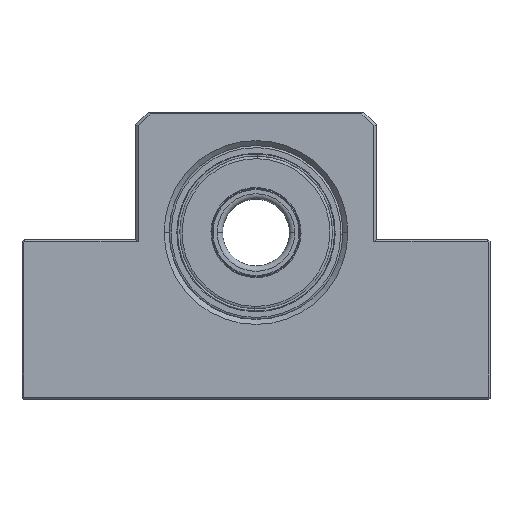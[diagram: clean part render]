
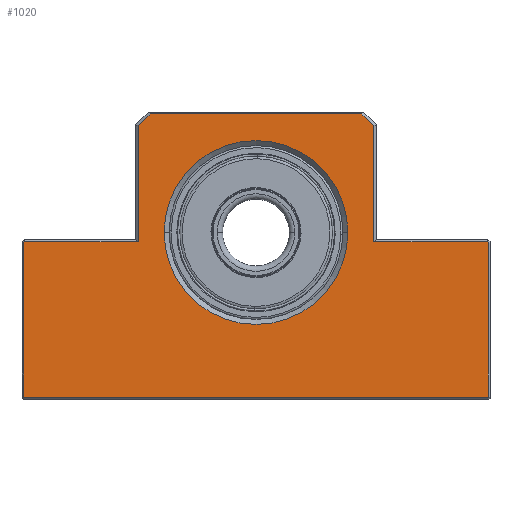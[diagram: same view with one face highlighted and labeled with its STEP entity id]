
A CAD part, top view. The second image highlights one B-rep face of the part: STEP entity #1020.
In plain terms, the highlighted planar face has unit normal (0, 0, 1).
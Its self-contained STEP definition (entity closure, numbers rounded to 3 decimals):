
#22 = AXIS2_PLACEMENT_3D ( 'NONE', #1830, #1839, #1809 ) ;
#33 = LINE ( 'NONE', #1534, #823 ) ;
#37 = AXIS2_PLACEMENT_3D ( 'NONE', #2757, #505, #1284 ) ;
#119 = VERTEX_POINT ( 'NONE', #2928 ) ;
#137 = EDGE_LOOP ( 'NONE', ( #1298, #3365, #2610, #871, #2520, #1122, #2432, #332, #3097, #1663, #962, #1586, #2916, #2181 ) ) ;
#178 = EDGE_CURVE ( 'NONE', #2779, #2315, #1399, .T. ) ;
#195 = CIRCLE ( 'NONE', #37, 13.75 ) ;
#211 = CARTESIAN_POINT ( 'NONE',  ( -17.6, 41.084, 9.9 ) ) ;
#238 = VECTOR ( 'NONE', #278, 1000. ) ;
#248 = DIRECTION ( 'NONE',  ( 0.707, -0.707, 0. ) ) ;
#260 = CARTESIAN_POINT ( 'NONE',  ( -17.6, 49.812, 9.9 ) ) ;
#278 = DIRECTION ( 'NONE',  ( 0.707, 0.707, 0. ) ) ;
#292 = EDGE_CURVE ( 'NONE', #759, #2779, #3136, .T. ) ;
#324 = EDGE_CURVE ( 'NONE', #1563, #3239, #195, .T. ) ;
#332 = ORIENTED_EDGE ( 'NONE', *, *, #807, .F. ) ;
#340 = DIRECTION ( 'NONE',  ( -1., 0., 0. ) ) ;
#356 = CARTESIAN_POINT ( 'NONE',  ( 34.75, 0.5, 9.9 ) ) ;
#377 = VERTEX_POINT ( 'NONE', #1343 ) ;
#387 = VECTOR ( 'NONE', #2491, 1000. ) ;
#417 = CARTESIAN_POINT ( 'NONE',  ( -34.95, 0.7, 9.9 ) ) ;
#418 = CARTESIAN_POINT ( 'NONE',  ( -11.767, 46.917, 9.9 ) ) ;
#431 = DIRECTION ( 'NONE',  ( 1., 0., 0. ) ) ;
#435 = CARTESIAN_POINT ( 'NONE',  ( -34.7, 23.67, 9.9 ) ) ;
#482 = CARTESIAN_POINT ( 'NONE',  ( -48.163, 42.85, 9.9 ) ) ;
#505 = DIRECTION ( 'NONE',  ( 0., 0., 1. ) ) ;
#513 = CARTESIAN_POINT ( 'NONE',  ( -34.75, 23.62, 9.9 ) ) ;
#532 = EDGE_CURVE ( 'NONE', #2699, #1853, #3185, .T. ) ;
#659 = VERTEX_POINT ( 'NONE', #897 ) ;
#733 = DIRECTION ( 'NONE',  ( 0., 1., 0. ) ) ;
#737 = CARTESIAN_POINT ( 'NONE',  ( 46.917, 11.767, 9.9 ) ) ;
#759 = VERTEX_POINT ( 'NONE', #1504 ) ;
#789 = AXIS2_PLACEMENT_3D ( 'NONE', #3210, #3201, #3188 ) ;
#797 = DIRECTION ( 'NONE',  ( 0.707, -0.707, 0. ) ) ;
#807 = EDGE_CURVE ( 'NONE', #659, #2805, #1581, .T. ) ;
#823 = VECTOR ( 'NONE', #1557, 1000. ) ;
#854 = CARTESIAN_POINT ( 'NONE',  ( 34.45, 23.92, 9.9 ) ) ;
#866 = VECTOR ( 'NONE', #3036, 1000. ) ;
#871 = ORIENTED_EDGE ( 'NONE', *, *, #292, .F. ) ;
#897 = CARTESIAN_POINT ( 'NONE',  ( 17.6, 23.72, 9.9 ) ) ;
#940 = VECTOR ( 'NONE', #1340, 1000. ) ;
#962 = ORIENTED_EDGE ( 'NONE', *, *, #2709, .F. ) ;
#976 = CIRCLE ( 'NONE', #789, 13.75 ) ;
#1020 = ADVANCED_FACE ( 'NONE', ( #1446, #2867 ), #2573, .T. ) ;
#1029 = EDGE_CURVE ( 'NONE', #3334, #1140, #33, .T. ) ;
#1106 = LINE ( 'NONE', #260, #3261 ) ;
#1122 = ORIENTED_EDGE ( 'NONE', *, *, #2524, .F. ) ;
#1140 = VERTEX_POINT ( 'NONE', #1361 ) ;
#1141 = CARTESIAN_POINT ( 'NONE',  ( -15.834, 42.85, 9.9 ) ) ;
#1152 = DIRECTION ( 'NONE',  ( 0., 1., 0. ) ) ;
#1159 = CARTESIAN_POINT ( 'NONE',  ( 34.65, 23.72, 9.9 ) ) ;
#1171 = DIRECTION ( 'NONE',  ( -0.707, 0.707, 0. ) ) ;
#1173 = VERTEX_POINT ( 'NONE', #513 ) ;
#1186 = LINE ( 'NONE', #3049, #387 ) ;
#1226 = LINE ( 'NONE', #2407, #2537 ) ;
#1231 = LINE ( 'NONE', #482, #2453 ) ;
#1261 = CARTESIAN_POINT ( 'NONE',  ( -34.75, 0., 9.9 ) ) ;
#1284 = DIRECTION ( 'NONE',  ( 1., 0., 0. ) ) ;
#1298 = ORIENTED_EDGE ( 'NONE', *, *, #3113, .F. ) ;
#1340 = DIRECTION ( 'NONE',  ( 0., -1., 0. ) ) ;
#1343 = CARTESIAN_POINT ( 'NONE',  ( 17.6, 41.084, 9.9 ) ) ;
#1353 = VECTOR ( 'NONE', #797, 1000. ) ;
#1361 = CARTESIAN_POINT ( 'NONE',  ( -17.6, 23.72, 9.9 ) ) ;
#1381 = CARTESIAN_POINT ( 'NONE',  ( 34.75, 0., 9.9 ) ) ;
#1399 = LINE ( 'NONE', #417, #3320 ) ;
#1446 = FACE_BOUND ( 'NONE', #1644, .T. ) ;
#1501 = DIRECTION ( 'NONE',  ( 0.707, 0.707, 0. ) ) ;
#1504 = CARTESIAN_POINT ( 'NONE',  ( 34.65, 0.4, 9.9 ) ) ;
#1534 = CARTESIAN_POINT ( 'NONE',  ( 35.15, 23.72, 9.9 ) ) ;
#1537 = CARTESIAN_POINT ( 'NONE',  ( 35.15, 0.4, 9.9 ) ) ;
#1544 = VERTEX_POINT ( 'NONE', #1900 ) ;
#1557 = DIRECTION ( 'NONE',  ( 1., 0., 0. ) ) ;
#1563 = VERTEX_POINT ( 'NONE', #1745 ) ;
#1581 = LINE ( 'NONE', #3100, #866 ) ;
#1586 = ORIENTED_EDGE ( 'NONE', *, *, #532, .F. ) ;
#1601 = CARTESIAN_POINT ( 'NONE',  ( -13.75, 25.12, 9.9 ) ) ;
#1644 = EDGE_LOOP ( 'NONE', ( #2784, #2697 ) ) ;
#1663 = ORIENTED_EDGE ( 'NONE', *, *, #3338, .F. ) ;
#1745 = CARTESIAN_POINT ( 'NONE',  ( 13.75, 25.12, 9.9 ) ) ;
#1809 = DIRECTION ( 'NONE',  ( 1., 0., 0. ) ) ;
#1830 = CARTESIAN_POINT ( 'NONE',  ( -55.871, 50., 9.9 ) ) ;
#1839 = DIRECTION ( 'NONE',  ( 0., 0., 1. ) ) ;
#1853 = VERTEX_POINT ( 'NONE', #1141 ) ;
#1900 = CARTESIAN_POINT ( 'NONE',  ( 34.75, 23.62, 9.9 ) ) ;
#1919 = EDGE_CURVE ( 'NONE', #2805, #1544, #1961, .T. ) ;
#1961 = LINE ( 'NONE', #854, #1353 ) ;
#1968 = EDGE_CURVE ( 'NONE', #1140, #2699, #1106, .T. ) ;
#1994 = VECTOR ( 'NONE', #1501, 1000. ) ;
#2035 = VECTOR ( 'NONE', #248, 1000. ) ;
#2157 = LINE ( 'NONE', #435, #1994 ) ;
#2181 = ORIENTED_EDGE ( 'NONE', *, *, #1029, .F. ) ;
#2294 = CARTESIAN_POINT ( 'NONE',  ( -34.65, 23.72, 9.9 ) ) ;
#2310 = VERTEX_POINT ( 'NONE', #356 ) ;
#2315 = VERTEX_POINT ( 'NONE', #3477 ) ;
#2324 = LINE ( 'NONE', #1261, #3168 ) ;
#2329 = LINE ( 'NONE', #1381, #940 ) ;
#2384 = VECTOR ( 'NONE', #340, 1000. ) ;
#2407 = CARTESIAN_POINT ( 'NONE',  ( 17.6, 0., 9.9 ) ) ;
#2432 = ORIENTED_EDGE ( 'NONE', *, *, #1919, .F. ) ;
#2453 = VECTOR ( 'NONE', #431, 1000. ) ;
#2491 = DIRECTION ( 'NONE',  ( -0.707, -0.707, 0. ) ) ;
#2520 = ORIENTED_EDGE ( 'NONE', *, *, #2969, .F. ) ;
#2524 = EDGE_CURVE ( 'NONE', #1544, #2310, #2329, .T. ) ;
#2537 = VECTOR ( 'NONE', #2767, 1000. ) ;
#2573 = PLANE ( 'NONE',  #22 ) ;
#2610 = ORIENTED_EDGE ( 'NONE', *, *, #178, .F. ) ;
#2697 = ORIENTED_EDGE ( 'NONE', *, *, #3240, .F. ) ;
#2699 = VERTEX_POINT ( 'NONE', #211 ) ;
#2709 = EDGE_CURVE ( 'NONE', #1853, #119, #1231, .T. ) ;
#2754 = LINE ( 'NONE', #737, #2035 ) ;
#2757 = CARTESIAN_POINT ( 'NONE',  ( 0., 25.12, 9.9 ) ) ;
#2767 = DIRECTION ( 'NONE',  ( 0., -1., 0. ) ) ;
#2779 = VERTEX_POINT ( 'NONE', #3461 ) ;
#2784 = ORIENTED_EDGE ( 'NONE', *, *, #324, .F. ) ;
#2805 = VERTEX_POINT ( 'NONE', #1159 ) ;
#2867 = FACE_OUTER_BOUND ( 'NONE', #137, .T. ) ;
#2916 = ORIENTED_EDGE ( 'NONE', *, *, #1968, .F. ) ;
#2928 = CARTESIAN_POINT ( 'NONE',  ( 15.834, 42.85, 9.9 ) ) ;
#2969 = EDGE_CURVE ( 'NONE', #2310, #759, #1186, .T. ) ;
#3036 = DIRECTION ( 'NONE',  ( 1., 0., 0. ) ) ;
#3037 = EDGE_CURVE ( 'NONE', #2315, #1173, #2324, .T. ) ;
#3049 = CARTESIAN_POINT ( 'NONE',  ( 34.95, 0.7, 9.9 ) ) ;
#3097 = ORIENTED_EDGE ( 'NONE', *, *, #3150, .F. ) ;
#3100 = CARTESIAN_POINT ( 'NONE',  ( 39.817, 23.72, 9.9 ) ) ;
#3113 = EDGE_CURVE ( 'NONE', #1173, #3334, #2157, .T. ) ;
#3136 = LINE ( 'NONE', #1537, #2384 ) ;
#3150 = EDGE_CURVE ( 'NONE', #377, #659, #1226, .T. ) ;
#3168 = VECTOR ( 'NONE', #1152, 1000. ) ;
#3185 = LINE ( 'NONE', #418, #238 ) ;
#3188 = DIRECTION ( 'NONE',  ( 1., 0., 0. ) ) ;
#3201 = DIRECTION ( 'NONE',  ( 0., 0., 1. ) ) ;
#3210 = CARTESIAN_POINT ( 'NONE',  ( 0., 25.12, 9.9 ) ) ;
#3239 = VERTEX_POINT ( 'NONE', #1601 ) ;
#3240 = EDGE_CURVE ( 'NONE', #3239, #1563, #976, .T. ) ;
#3261 = VECTOR ( 'NONE', #733, 1000. ) ;
#3320 = VECTOR ( 'NONE', #1171, 1000. ) ;
#3334 = VERTEX_POINT ( 'NONE', #2294 ) ;
#3338 = EDGE_CURVE ( 'NONE', #119, #377, #2754, .T. ) ;
#3365 = ORIENTED_EDGE ( 'NONE', *, *, #3037, .F. ) ;
#3461 = CARTESIAN_POINT ( 'NONE',  ( -34.65, 0.4, 9.9 ) ) ;
#3477 = CARTESIAN_POINT ( 'NONE',  ( -34.75, 0.5, 9.9 ) ) ;
